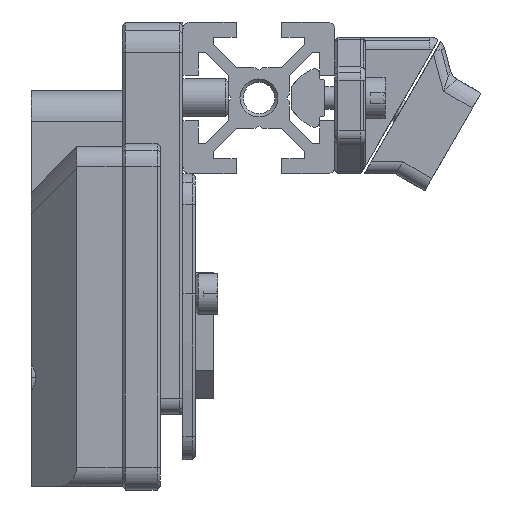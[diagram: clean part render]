
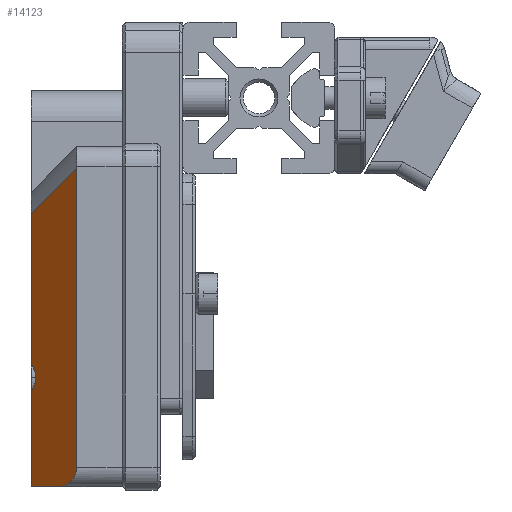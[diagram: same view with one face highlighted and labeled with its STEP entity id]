
A CAD part, left-side view. The second image highlights one B-rep face of the part: STEP entity #14123.
In plain terms, the highlighted planar face has unit normal (-0.707, 0.707, 0).
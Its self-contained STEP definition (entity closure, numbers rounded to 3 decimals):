
#13851=CARTESIAN_POINT('',(-65.165,226.6,1.079));
#13852=VERTEX_POINT('',#13851);
#13853=CARTESIAN_POINT('',(-68.565,223.2,1.079));
#13854=VERTEX_POINT('',#13853);
#13855=CARTESIAN_POINT('',(-65.165,226.6,1.079));
#13856=DIRECTION('',(-0.707,-0.707,-0.));
#13857=VECTOR('',#13856,4.808);
#13858=LINE('',#13855,#13857);
#13859=EDGE_CURVE('',#13852,#13854,#13858,.T.);
#14058=CARTESIAN_POINT('',(-67.165,224.6,23.479));
#14059=DIRECTION('',(-0.707,0.707,-0.));
#14060=DIRECTION('',(0.,-0.,-1.));
#14061=AXIS2_PLACEMENT_3D('',#14058,#14059,#14060);
#14062=PLANE('',#14061);
#14063=CARTESIAN_POINT('',(-71.165,220.6,43.05));
#14064=VERTEX_POINT('',#14063);
#14065=CARTESIAN_POINT('',(-65.165,226.6,37.05));
#14066=VERTEX_POINT('',#14065);
#14067=CARTESIAN_POINT('',(-71.165,220.6,43.05));
#14068=DIRECTION('',(0.577,0.577,-0.577));
#14069=VECTOR('',#14068,10.392);
#14070=LINE('',#14067,#14069);
#14071=EDGE_CURVE('',#14064,#14066,#14070,.T.);
#14072=ORIENTED_EDGE('',*,*,#14071,.T.);
#14073=CARTESIAN_POINT('',(-65.165,226.6,17.279));
#14074=VERTEX_POINT('',#14073);
#14075=CARTESIAN_POINT('',(-65.165,226.6,37.05));
#14076=DIRECTION('',(0.,-0.,-1.));
#14077=VECTOR('',#14076,19.772);
#14078=LINE('',#14075,#14077);
#14079=EDGE_CURVE('',#14066,#14074,#14078,.T.);
#14080=ORIENTED_EDGE('',*,*,#14079,.T.);
#14081=CARTESIAN_POINT('',(-65.765,226.,15.479));
#14082=VERTEX_POINT('',#14081);
#14083=CARTESIAN_POINT('',(-62.765,229.,15.479));
#14084=DIRECTION('',(-0.707,0.707,-0.));
#14085=DIRECTION('',(0.707,0.707,0.));
#14086=AXIS2_PLACEMENT_3D('',#14083,#14084,#14085);
#14087=ELLIPSE('',#14086,4.243,3.);
#14088=EDGE_CURVE('',#14082,#14074,#14087,.T.);
#14089=ORIENTED_EDGE('',*,*,#14088,.F.);
#14090=CARTESIAN_POINT('',(-65.165,226.6,13.679));
#14091=VERTEX_POINT('',#14090);
#14092=CARTESIAN_POINT('',(-62.765,229.,15.479));
#14093=DIRECTION('',(-0.707,0.707,-0.));
#14094=DIRECTION('',(0.707,0.707,0.));
#14095=AXIS2_PLACEMENT_3D('',#14092,#14093,#14094);
#14096=ELLIPSE('',#14095,4.243,3.);
#14097=EDGE_CURVE('',#14091,#14082,#14096,.T.);
#14098=ORIENTED_EDGE('',*,*,#14097,.F.);
#14099=CARTESIAN_POINT('',(-65.165,226.6,13.679));
#14100=DIRECTION('',(0.,-0.,-1.));
#14101=VECTOR('',#14100,12.6);
#14102=LINE('',#14099,#14101);
#14103=EDGE_CURVE('',#14091,#13852,#14102,.T.);
#14104=ORIENTED_EDGE('',*,*,#14103,.T.);
#14105=ORIENTED_EDGE('',*,*,#13859,.T.);
#14106=CARTESIAN_POINT('',(-71.165,220.6,3.679));
#14107=VERTEX_POINT('',#14106);
#14108=CARTESIAN_POINT('',(-68.565,223.2,3.679));
#14109=DIRECTION('',(0.707,-0.707,0.));
#14110=DIRECTION('',(-0.707,-0.707,0.));
#14111=AXIS2_PLACEMENT_3D('',#14108,#14109,#14110);
#14112=ELLIPSE('',#14111,3.677,2.6);
#14113=EDGE_CURVE('',#14107,#13854,#14112,.T.);
#14114=ORIENTED_EDGE('',*,*,#14113,.F.);
#14115=CARTESIAN_POINT('',(-71.165,220.6,43.05));
#14116=DIRECTION('',(0.,-0.,-1.));
#14117=VECTOR('',#14116,39.372);
#14118=LINE('',#14115,#14117);
#14119=EDGE_CURVE('',#14064,#14107,#14118,.T.);
#14120=ORIENTED_EDGE('',*,*,#14119,.F.);
#14121=EDGE_LOOP('',(#14072,#14080,#14089,#14098,#14104,#14105,#14114,#14120));
#14122=FACE_BOUND('',#14121,.T.);
#14123=ADVANCED_FACE('',(#14122),#14062,.T.);
